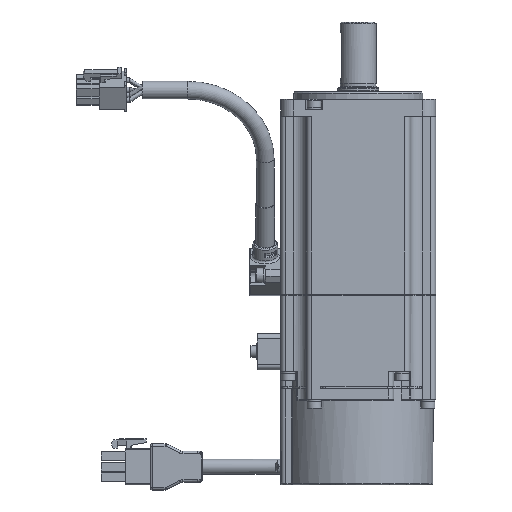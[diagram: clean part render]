
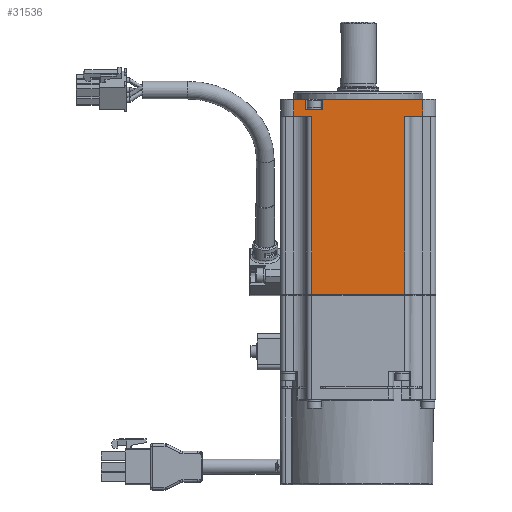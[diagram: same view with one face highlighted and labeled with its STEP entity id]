
A CAD part, left-side view. The second image highlights one B-rep face of the part: STEP entity #31536.
In plain terms, the highlighted planar face has unit normal (-1, 0, 0).
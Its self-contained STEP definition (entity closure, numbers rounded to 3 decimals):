
#1883=PLANE('',#34113);
#3395=FACE_OUTER_BOUND('',#5161,.T.);
#5161=EDGE_LOOP('',(#27312,#27313,#27314,#27315,#27316,#27317,#27318,#27319,
#27320,#27321,#27322,#27323));
#8960=LINE('',#57495,#11785);
#9025=LINE('',#57728,#11850);
#9026=LINE('',#57734,#11851);
#9027=LINE('',#57738,#11852);
#9029=LINE('',#57744,#11854);
#9031=LINE('',#57754,#11856);
#9039=LINE('',#57780,#11864);
#9043=LINE('',#57789,#11868);
#9045=LINE('',#57795,#11870);
#9069=LINE('',#57852,#11894);
#9070=LINE('',#57855,#11895);
#9071=LINE('',#57856,#11896);
#11785=VECTOR('',#41237,10.);
#11850=VECTOR('',#41494,10.);
#11851=VECTOR('',#41503,10.);
#11852=VECTOR('',#41508,10.);
#11854=VECTOR('',#41514,10.);
#11856=VECTOR('',#41522,10.);
#11864=VECTOR('',#41552,10.);
#11868=VECTOR('',#41562,10.);
#11870=VECTOR('',#41568,10.);
#11894=VECTOR('',#41630,10.);
#11895=VECTOR('',#41635,10.);
#11896=VECTOR('',#41636,10.);
#14914=VERTEX_POINT('',#57489);
#14915=VERTEX_POINT('',#57493);
#14986=VERTEX_POINT('',#57726);
#14987=VERTEX_POINT('',#57727);
#14989=VERTEX_POINT('',#57736);
#14991=VERTEX_POINT('',#57742);
#14995=VERTEX_POINT('',#57751);
#14996=VERTEX_POINT('',#57753);
#15002=VERTEX_POINT('',#57777);
#15005=VERTEX_POINT('',#57787);
#15007=VERTEX_POINT('',#57793);
#15021=VERTEX_POINT('',#57851);
#19065=EDGE_CURVE('',#14914,#14915,#8960,.T.);
#19178=EDGE_CURVE('',#14986,#14987,#9025,.T.);
#19182=EDGE_CURVE('',#14987,#14914,#9026,.T.);
#19184=EDGE_CURVE('',#14915,#14989,#9027,.T.);
#19187=EDGE_CURVE('',#14989,#14991,#9029,.T.);
#19191=EDGE_CURVE('',#14996,#14995,#9031,.T.);
#19204=EDGE_CURVE('',#14995,#15002,#9039,.T.);
#19209=EDGE_CURVE('',#15005,#14996,#9043,.T.);
#19212=EDGE_CURVE('',#14991,#15007,#9045,.T.);
#19241=EDGE_CURVE('',#15021,#14986,#9069,.T.);
#19243=EDGE_CURVE('',#15021,#15002,#9070,.T.);
#19244=EDGE_CURVE('',#15005,#15007,#9071,.T.);
#27312=ORIENTED_EDGE('',*,*,#19204,.T.);
#27313=ORIENTED_EDGE('',*,*,#19243,.F.);
#27314=ORIENTED_EDGE('',*,*,#19241,.T.);
#27315=ORIENTED_EDGE('',*,*,#19178,.T.);
#27316=ORIENTED_EDGE('',*,*,#19182,.T.);
#27317=ORIENTED_EDGE('',*,*,#19065,.T.);
#27318=ORIENTED_EDGE('',*,*,#19184,.T.);
#27319=ORIENTED_EDGE('',*,*,#19187,.T.);
#27320=ORIENTED_EDGE('',*,*,#19212,.T.);
#27321=ORIENTED_EDGE('',*,*,#19244,.F.);
#27322=ORIENTED_EDGE('',*,*,#19209,.T.);
#27323=ORIENTED_EDGE('',*,*,#19191,.T.);
#31536=ADVANCED_FACE('',(#3395),#1883,.T.);
#34113=AXIS2_PLACEMENT_3D('',#57854,#41633,#41634);
#41237=DIRECTION('',(0.,-1.,0.));
#41494=DIRECTION('',(0.,-1.,0.));
#41503=DIRECTION('',(0.,0.,-1.));
#41508=DIRECTION('',(0.,0.,1.));
#41514=DIRECTION('',(0.,-1.,0.));
#41522=DIRECTION('',(0.,1.,0.));
#41552=DIRECTION('',(0.,0.,1.));
#41562=DIRECTION('',(0.,0.,-1.));
#41568=DIRECTION('',(0.,0.,1.));
#41630=DIRECTION('',(0.,0.,-1.));
#41633=DIRECTION('center_axis',(-1.,0.,0.));
#41634=DIRECTION('ref_axis',(0.,0.,1.));
#41635=DIRECTION('',(0.,-1.,0.));
#41636=DIRECTION('',(0.,-1.,0.));
#57489=CARTESIAN_POINT('',(-30.103,18.,-15.764));
#57493=CARTESIAN_POINT('',(-30.103,-18.,-15.764));
#57495=CARTESIAN_POINT('',(-30.103,18.,-15.764));
#57726=CARTESIAN_POINT('',(-30.103,25.,53.136));
#57727=CARTESIAN_POINT('',(-30.103,18.,53.136));
#57728=CARTESIAN_POINT('',(-30.103,25.,53.136));
#57734=CARTESIAN_POINT('',(-30.103,18.,53.136));
#57736=CARTESIAN_POINT('',(-30.103,-18.,53.136));
#57738=CARTESIAN_POINT('',(-30.103,-18.,-15.764));
#57742=CARTESIAN_POINT('',(-30.103,-25.,53.136));
#57744=CARTESIAN_POINT('',(-30.103,-18.,53.136));
#57751=CARTESIAN_POINT('',(-30.103,20.25,55.636));
#57753=CARTESIAN_POINT('',(-30.103,13.75,55.636));
#57754=CARTESIAN_POINT('',(-30.103,13.75,55.636));
#57777=CARTESIAN_POINT('',(-30.103,20.25,59.636));
#57780=CARTESIAN_POINT('',(-30.103,20.25,55.636));
#57787=CARTESIAN_POINT('',(-30.103,13.75,59.636));
#57789=CARTESIAN_POINT('',(-30.103,13.75,59.636));
#57793=CARTESIAN_POINT('',(-30.103,-25.,59.636));
#57795=CARTESIAN_POINT('',(-30.103,-25.,53.136));
#57851=CARTESIAN_POINT('',(-30.103,25.,59.636));
#57852=CARTESIAN_POINT('',(-30.103,25.,59.636));
#57854=CARTESIAN_POINT('Origin',(-30.103,25.01,21.936));
#57855=CARTESIAN_POINT('',(-30.103,25.,59.636));
#57856=CARTESIAN_POINT('',(-30.103,13.75,59.636));
